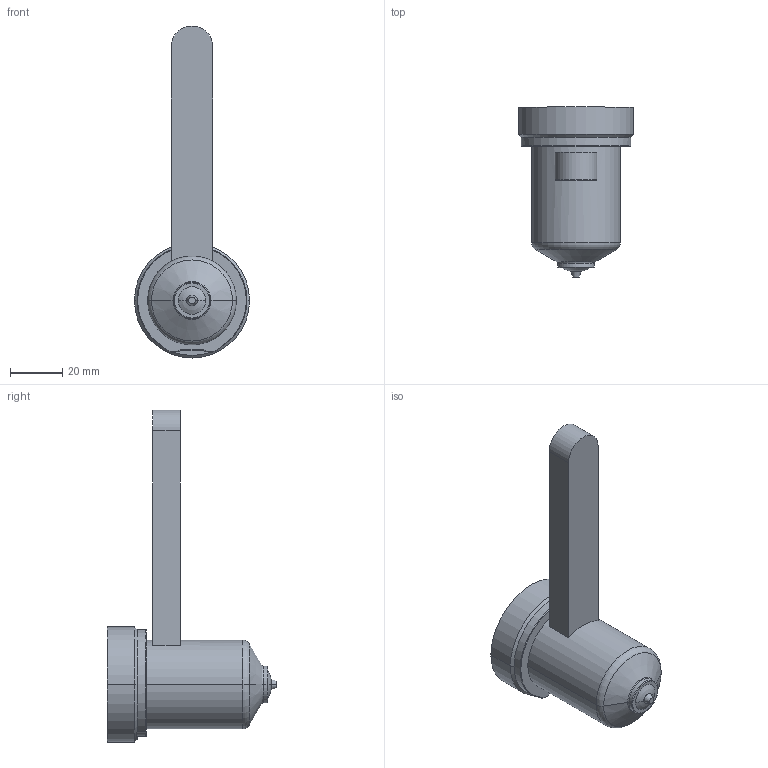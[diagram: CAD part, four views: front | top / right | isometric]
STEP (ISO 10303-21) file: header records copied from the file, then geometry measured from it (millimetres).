
FILE_DESCRIPTION((''),'2;1');
FILE_NAME('EO10_VG-BL_WR_050_COT','2024-02-19T13:10:28',('sundharh'),(''),'CREO PARAMETRIC BY PTC INC, 2023154','CREO PARAMETRIC BY PTC INC, 2023154','');
FILE_SCHEMA(('CONFIG_CONTROL_DESIGN'));
Length unit declared in the file: millimetre
Products named in the file (1): EO10_VG-BL_WR_050_COT
Bounding box: 44 x 65 x 127 mm (x, y, z)
Volume: 75010.6 mm3; surface area: 13908.1 mm2
Topology: 1 solids, 1 shells, 38 faces, 81 edges, 48 vertices
Faces by surface type: cylinder 11, plane 10, torus 9, cone 6, sphere 2
Entity records: 1143 total; most frequent: CARTESIAN_POINT 255, DIRECTION 199, ORIENTED_EDGE 162, AXIS2_PLACEMENT_3D 86, EDGE_CURVE 81, VERTEX_POINT 48, CIRCLE 48, EDGE_LOOP 41
